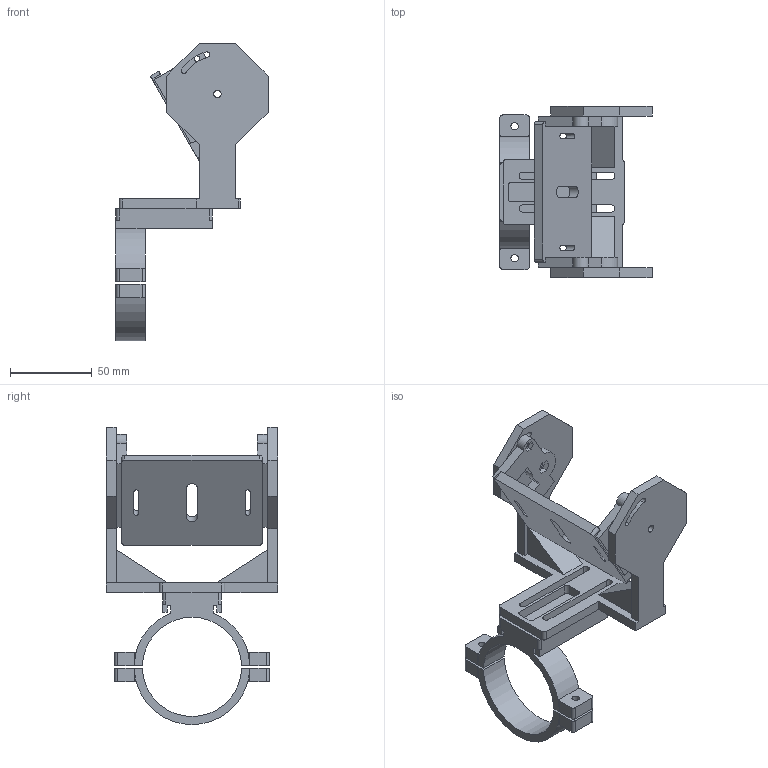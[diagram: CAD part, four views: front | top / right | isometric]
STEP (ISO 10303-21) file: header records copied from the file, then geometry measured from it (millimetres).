
FILE_DESCRIPTION(('Open CASCADE Model'),'2;1');
FILE_NAME('Open CASCADE Shape Model','2026-09-18T15:16:09',('Author'),( 'Open CASCADE'),'Open CASCADE STEP processor 7.9','Open CASCADE 7.9' ,'Unknown');
FILE_SCHEMA(('AUTOMOTIVE_DESIGN { 1 0 10303 214 1 1 1 1 }'));
Length unit declared in the file: millimetre
Products named in the file (5): g1_webcam_revision_2; upper; lower; fork; carrier
Assembly tree (4 placements, depth 2):
  g1_webcam_revision_2
    upper
    lower
    fork
    carrier
Bounding box: 93 x 104.6 x 181.6 mm (x, y, z)
Volume: 163180.5 mm3; surface area: 68644.3 mm2
Topology: 4 solids, 4 shells, 238 faces, 672 edges, 448 vertices
Faces by surface type: plane 163, cylinder 75
Full cylindrical faces by diameter (mm): 3.4 x2, 4.5 x12
Entity records: 17288 total; most frequent: CARTESIAN_POINT 3667, DIRECTION 2544, LINE 1692, VECTOR 1692, ORIENTED_EDGE 1344, PCURVE 1344, DEFINITIONAL_REPRESENTATION 1344, EDGE_CURVE 672
